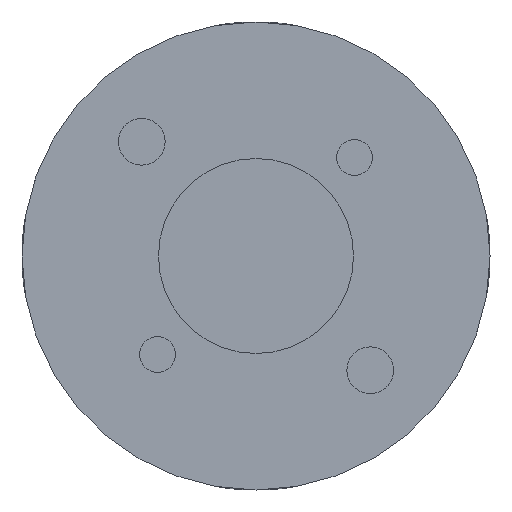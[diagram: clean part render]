
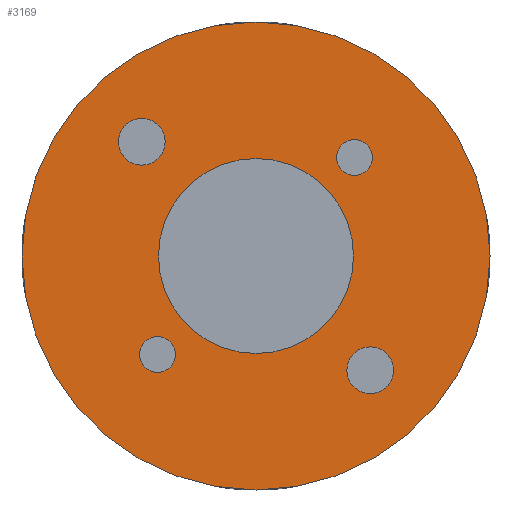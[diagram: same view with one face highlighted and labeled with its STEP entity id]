
A CAD part, front view. The second image highlights one B-rep face of the part: STEP entity #3169.
In plain terms, the highlighted planar face has unit normal (0, -1, 0).
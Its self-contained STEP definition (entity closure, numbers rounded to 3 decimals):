
#85 = DIRECTION ( 'NONE',  ( 0., 0., -1. ) ) ;
#303 = VERTEX_POINT ( 'NONE', #2716 ) ;
#331 = DIRECTION ( 'NONE',  ( 0., -1., 0. ) ) ;
#400 = AXIS2_PLACEMENT_3D ( 'NONE', #3928, #2937, #4825 ) ;
#402 = VERTEX_POINT ( 'NONE', #474 ) ;
#414 = VERTEX_POINT ( 'NONE', #1818 ) ;
#422 = EDGE_LOOP ( 'NONE', ( #1685, #5226 ) ) ;
#447 = CARTESIAN_POINT ( 'NONE',  ( -10.253, 0., 8.153 ) ) ;
#474 = CARTESIAN_POINT ( 'NONE',  ( 10.253, 0., -12.353 ) ) ;
#535 = CARTESIAN_POINT ( 'NONE',  ( 0., 0., 0. ) ) ;
#572 = AXIS2_PLACEMENT_3D ( 'NONE', #535, #2535, #4432 ) ;
#698 = ORIENTED_EDGE ( 'NONE', *, *, #5427, .F. ) ;
#711 = DIRECTION ( 'NONE',  ( 0., -1., 0. ) ) ;
#773 = DIRECTION ( 'NONE',  ( 0., 0., -1. ) ) ;
#846 = CARTESIAN_POINT ( 'NONE',  ( 0., 0., -21. ) ) ;
#869 = AXIS2_PLACEMENT_3D ( 'NONE', #3805, #3374, #4275 ) ;
#912 = EDGE_LOOP ( 'NONE', ( #698, #4986 ) ) ;
#950 = DIRECTION ( 'NONE',  ( 0., 0., -1. ) ) ;
#967 = CARTESIAN_POINT ( 'NONE',  ( 0., 0., 0. ) ) ;
#979 = CIRCLE ( 'NONE', #1641, 2.1 ) ;
#1035 = EDGE_CURVE ( 'NONE', #2891, #5250, #3304, .T. ) ;
#1039 = CARTESIAN_POINT ( 'NONE',  ( 0., 0., 0. ) ) ;
#1062 = CIRCLE ( 'NONE', #4006, 1.6 ) ;
#1070 = DIRECTION ( 'NONE',  ( 0., -1., 0. ) ) ;
#1168 = AXIS2_PLACEMENT_3D ( 'NONE', #967, #1842, #5973 ) ;
#1180 = ORIENTED_EDGE ( 'NONE', *, *, #2469, .F. ) ;
#1224 = DIRECTION ( 'NONE',  ( 0., 0., -1. ) ) ;
#1255 = AXIS2_PLACEMENT_3D ( 'NONE', #4022, #5422, #1224 ) ;
#1416 = FACE_OUTER_BOUND ( 'NONE', #422, .T. ) ;
#1494 = EDGE_CURVE ( 'NONE', #4027, #414, #4204, .T. ) ;
#1589 = CARTESIAN_POINT ( 'NONE',  ( 0., 0., -8.75 ) ) ;
#1617 = EDGE_LOOP ( 'NONE', ( #5038, #4727 ) ) ;
#1641 = AXIS2_PLACEMENT_3D ( 'NONE', #4649, #331, #773 ) ;
#1685 = ORIENTED_EDGE ( 'NONE', *, *, #2680, .T. ) ;
#1743 = DIRECTION ( 'NONE',  ( 0., -1., 0. ) ) ;
#1773 = EDGE_LOOP ( 'NONE', ( #1939, #2209 ) ) ;
#1818 = CARTESIAN_POINT ( 'NONE',  ( 0., 0., 8.75 ) ) ;
#1842 = DIRECTION ( 'NONE',  ( 0., -1., 0. ) ) ;
#1939 = ORIENTED_EDGE ( 'NONE', *, *, #1035, .F. ) ;
#1974 = CARTESIAN_POINT ( 'NONE',  ( -10.253, 0., 12.353 ) ) ;
#1986 = CARTESIAN_POINT ( 'NONE',  ( -10.253, 0., 10.253 ) ) ;
#2162 = CARTESIAN_POINT ( 'NONE',  ( 0., 0., 21. ) ) ;
#2209 = ORIENTED_EDGE ( 'NONE', *, *, #4352, .F. ) ;
#2250 = FACE_BOUND ( 'NONE', #4237, .T. ) ;
#2262 = CIRCLE ( 'NONE', #400, 2.1 ) ;
#2303 = FACE_BOUND ( 'NONE', #912, .T. ) ;
#2339 = ORIENTED_EDGE ( 'NONE', *, *, #2866, .F. ) ;
#2393 = VERTEX_POINT ( 'NONE', #2788 ) ;
#2406 = DIRECTION ( 'NONE',  ( 0., 0., -1. ) ) ;
#2459 = DIRECTION ( 'NONE',  ( 0., -1., 0. ) ) ;
#2469 = EDGE_CURVE ( 'NONE', #3665, #2393, #3815, .T. ) ;
#2535 = DIRECTION ( 'NONE',  ( 0., -1., 0. ) ) ;
#2680 = EDGE_CURVE ( 'NONE', #5483, #3157, #3794, .T. ) ;
#2716 = CARTESIAN_POINT ( 'NONE',  ( 8.839, 0., 10.439 ) ) ;
#2730 = EDGE_CURVE ( 'NONE', #3371, #402, #979, .T. ) ;
#2736 = AXIS2_PLACEMENT_3D ( 'NONE', #4926, #711, #3586 ) ;
#2788 = CARTESIAN_POINT ( 'NONE',  ( -8.839, 0., -10.439 ) ) ;
#2832 = EDGE_CURVE ( 'NONE', #414, #4027, #5469, .T. ) ;
#2866 = EDGE_CURVE ( 'NONE', #2999, #303, #1062, .T. ) ;
#2891 = VERTEX_POINT ( 'NONE', #447 ) ;
#2937 = DIRECTION ( 'NONE',  ( 0., -1., 0. ) ) ;
#2975 = DIRECTION ( 'NONE',  ( 0., -1., 0. ) ) ;
#2980 = CARTESIAN_POINT ( 'NONE',  ( 8.839, 0., 8.839 ) ) ;
#2999 = VERTEX_POINT ( 'NONE', #5033 ) ;
#3052 = AXIS2_PLACEMENT_3D ( 'NONE', #5237, #5819, #3893 ) ;
#3157 = VERTEX_POINT ( 'NONE', #846 ) ;
#3169 = ADVANCED_FACE ( 'NONE', ( #4713, #2250, #5616, #2303, #6055, #1416 ), #3285, .T. ) ;
#3226 = EDGE_CURVE ( 'NONE', #303, #2999, #5966, .T. ) ;
#3274 = CARTESIAN_POINT ( 'NONE',  ( 8.839, 0., 8.839 ) ) ;
#3285 = PLANE ( 'NONE',  #1168 ) ;
#3304 = CIRCLE ( 'NONE', #4691, 2.1 ) ;
#3307 = AXIS2_PLACEMENT_3D ( 'NONE', #2980, #2459, #4775 ) ;
#3335 = EDGE_LOOP ( 'NONE', ( #2339, #3842 ) ) ;
#3371 = VERTEX_POINT ( 'NONE', #3749 ) ;
#3374 = DIRECTION ( 'NONE',  ( 0., -1., 0. ) ) ;
#3477 = ORIENTED_EDGE ( 'NONE', *, *, #4389, .F. ) ;
#3586 = DIRECTION ( 'NONE',  ( 0., 0., -1. ) ) ;
#3665 = VERTEX_POINT ( 'NONE', #3677 ) ;
#3677 = CARTESIAN_POINT ( 'NONE',  ( -8.839, 0., -7.239 ) ) ;
#3749 = CARTESIAN_POINT ( 'NONE',  ( 10.253, 0., -8.153 ) ) ;
#3794 = CIRCLE ( 'NONE', #2736, 21. ) ;
#3805 = CARTESIAN_POINT ( 'NONE',  ( -8.839, 0., -8.839 ) ) ;
#3815 = CIRCLE ( 'NONE', #869, 1.6 ) ;
#3842 = ORIENTED_EDGE ( 'NONE', *, *, #3226, .F. ) ;
#3860 = DIRECTION ( 'NONE',  ( 0., 0., -1. ) ) ;
#3893 = DIRECTION ( 'NONE',  ( 0., 0., -1. ) ) ;
#3928 = CARTESIAN_POINT ( 'NONE',  ( -10.253, 0., 10.253 ) ) ;
#4006 = AXIS2_PLACEMENT_3D ( 'NONE', #3274, #4241, #950 ) ;
#4022 = CARTESIAN_POINT ( 'NONE',  ( 10.253, 0., -10.253 ) ) ;
#4027 = VERTEX_POINT ( 'NONE', #1589 ) ;
#4204 = CIRCLE ( 'NONE', #572, 8.75 ) ;
#4237 = EDGE_LOOP ( 'NONE', ( #3477, #1180 ) ) ;
#4241 = DIRECTION ( 'NONE',  ( 0., -1., 0. ) ) ;
#4275 = DIRECTION ( 'NONE',  ( 0., 0., -1. ) ) ;
#4338 = CIRCLE ( 'NONE', #3052, 1.6 ) ;
#4352 = EDGE_CURVE ( 'NONE', #5250, #2891, #2262, .T. ) ;
#4389 = EDGE_CURVE ( 'NONE', #2393, #3665, #4338, .T. ) ;
#4432 = DIRECTION ( 'NONE',  ( 0., 0., -1. ) ) ;
#4649 = CARTESIAN_POINT ( 'NONE',  ( 10.253, 0., -10.253 ) ) ;
#4691 = AXIS2_PLACEMENT_3D ( 'NONE', #1986, #2975, #85 ) ;
#4713 = FACE_BOUND ( 'NONE', #1617, .T. ) ;
#4727 = ORIENTED_EDGE ( 'NONE', *, *, #2832, .F. ) ;
#4775 = DIRECTION ( 'NONE',  ( 0., 0., -1. ) ) ;
#4791 = AXIS2_PLACEMENT_3D ( 'NONE', #5516, #1743, #2406 ) ;
#4825 = DIRECTION ( 'NONE',  ( 0., 0., -1. ) ) ;
#4926 = CARTESIAN_POINT ( 'NONE',  ( 0., 0., 0. ) ) ;
#4976 = AXIS2_PLACEMENT_3D ( 'NONE', #1039, #1070, #3860 ) ;
#4986 = ORIENTED_EDGE ( 'NONE', *, *, #2730, .F. ) ;
#5033 = CARTESIAN_POINT ( 'NONE',  ( 8.839, 0., 7.239 ) ) ;
#5038 = ORIENTED_EDGE ( 'NONE', *, *, #1494, .F. ) ;
#5129 = EDGE_CURVE ( 'NONE', #3157, #5483, #5160, .T. ) ;
#5160 = CIRCLE ( 'NONE', #4976, 21. ) ;
#5226 = ORIENTED_EDGE ( 'NONE', *, *, #5129, .T. ) ;
#5237 = CARTESIAN_POINT ( 'NONE',  ( -8.839, 0., -8.839 ) ) ;
#5250 = VERTEX_POINT ( 'NONE', #1974 ) ;
#5258 = CIRCLE ( 'NONE', #1255, 2.1 ) ;
#5422 = DIRECTION ( 'NONE',  ( 0., -1., 0. ) ) ;
#5427 = EDGE_CURVE ( 'NONE', #402, #3371, #5258, .T. ) ;
#5469 = CIRCLE ( 'NONE', #4791, 8.75 ) ;
#5483 = VERTEX_POINT ( 'NONE', #2162 ) ;
#5516 = CARTESIAN_POINT ( 'NONE',  ( 0., 0., 0. ) ) ;
#5616 = FACE_BOUND ( 'NONE', #3335, .T. ) ;
#5819 = DIRECTION ( 'NONE',  ( 0., -1., 0. ) ) ;
#5966 = CIRCLE ( 'NONE', #3307, 1.6 ) ;
#5973 = DIRECTION ( 'NONE',  ( 0., 0., -1. ) ) ;
#6055 = FACE_BOUND ( 'NONE', #1773, .T. ) ;
